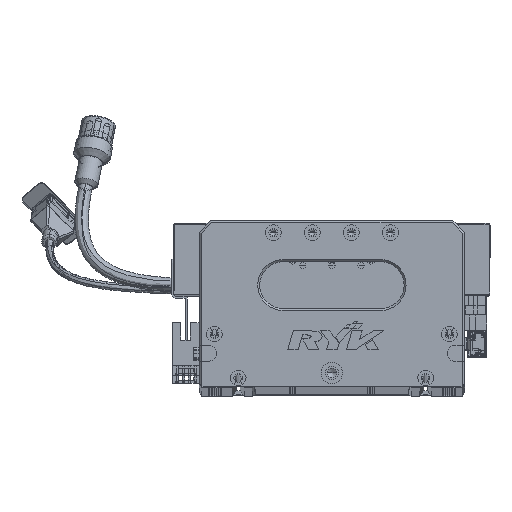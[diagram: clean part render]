
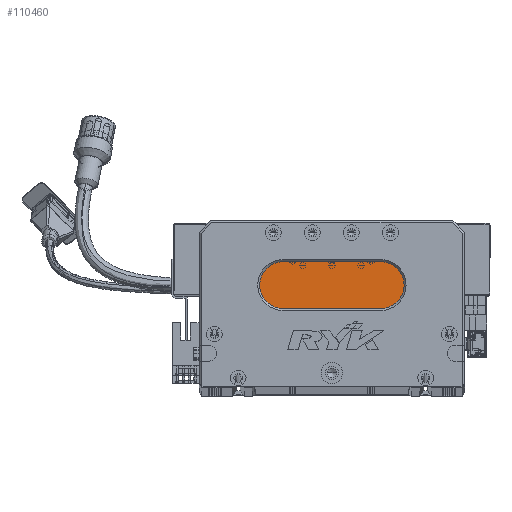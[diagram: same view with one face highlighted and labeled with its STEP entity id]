
A CAD part, top view. The second image highlights one B-rep face of the part: STEP entity #110460.
In plain terms, the highlighted planar face has unit normal (0, 0, 1) as drawn and (0, 0, -1) by its records, which use the part's own axes.
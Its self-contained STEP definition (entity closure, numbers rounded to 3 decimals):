
#2385 = DIRECTION ( 'NONE',  ( -1., 0., 0. ) ) ;
#6604 = CIRCLE ( 'NONE', #112884, 12. ) ;
#6897 = CARTESIAN_POINT ( 'NONE',  ( 43., 40., 13. ) ) ;
#7300 = ORIENTED_EDGE ( 'NONE', *, *, #128014, .T. ) ;
#8692 = AXIS2_PLACEMENT_3D ( 'NONE', #29308, #109112, #38988 ) ;
#9183 = EDGE_CURVE ( 'NONE', #80935, #64974, #130523, .T. ) ;
#18791 = EDGE_LOOP ( 'NONE', ( #102202, #24865, #7300, #125877, #94769 ) ) ;
#23215 = FACE_OUTER_BOUND ( 'NONE', #18791, .T. ) ;
#24865 = ORIENTED_EDGE ( 'NONE', *, *, #9183, .T. ) ;
#25184 = CARTESIAN_POINT ( 'NONE',  ( 43., 52., 13. ) ) ;
#26894 = DIRECTION ( 'NONE',  ( 0., 0., -1. ) ) ;
#29308 = CARTESIAN_POINT ( 'NONE',  ( 93., 52., 13. ) ) ;
#34053 = CARTESIAN_POINT ( 'NONE',  ( 93., 64., 13. ) ) ;
#37559 = CARTESIAN_POINT ( 'NONE',  ( 93., 64., 13. ) ) ;
#37570 = DIRECTION ( 'NONE',  ( 0., 0., -1. ) ) ;
#38988 = DIRECTION ( 'NONE',  ( -1., 0., 0. ) ) ;
#64974 = VERTEX_POINT ( 'NONE', #6897 ) ;
#65725 = DIRECTION ( 'NONE',  ( -1., 0., 0. ) ) ;
#66072 = LINE ( 'NONE', #34053, #75508 ) ;
#66090 = DIRECTION ( 'NONE',  ( -1., 0., 0. ) ) ;
#68423 = CIRCLE ( 'NONE', #107933, 12. ) ;
#68496 = AXIS2_PLACEMENT_3D ( 'NONE', #117874, #37570, #129311 ) ;
#74209 = DIRECTION ( 'NONE',  ( 1., 0., 0. ) ) ;
#75508 = VECTOR ( 'NONE', #74209, 1000. ) ;
#77903 = CARTESIAN_POINT ( 'NONE',  ( 93., 52., 13. ) ) ;
#80935 = VERTEX_POINT ( 'NONE', #89326 ) ;
#89326 = CARTESIAN_POINT ( 'NONE',  ( 93., 40., 13. ) ) ;
#92186 = EDGE_CURVE ( 'NONE', #99138, #127555, #112873, .T. ) ;
#94769 = ORIENTED_EDGE ( 'NONE', *, *, #108405, .T. ) ;
#98839 = CARTESIAN_POINT ( 'NONE',  ( 43., 64., 13. ) ) ;
#99138 = VERTEX_POINT ( 'NONE', #102311 ) ;
#101053 = VERTEX_POINT ( 'NONE', #37559 ) ;
#102202 = ORIENTED_EDGE ( 'NONE', *, *, #114966, .T. ) ;
#102311 = CARTESIAN_POINT ( 'NONE',  ( 31., 52., 13. ) ) ;
#102804 = CARTESIAN_POINT ( 'NONE',  ( 93., 40., 13. ) ) ;
#103656 = VECTOR ( 'NONE', #2385, 1000. ) ;
#107933 = AXIS2_PLACEMENT_3D ( 'NONE', #77903, #126462, #66090 ) ;
#108405 = EDGE_CURVE ( 'NONE', #127555, #101053, #66072, .T. ) ;
#109112 = DIRECTION ( 'NONE',  ( 0., 0., -1. ) ) ;
#110460 = ADVANCED_FACE ( 'NONE', ( #23215 ), #113564, .T. ) ;
#112873 = CIRCLE ( 'NONE', #68496, 12. ) ;
#112884 = AXIS2_PLACEMENT_3D ( 'NONE', #25184, #26894, #65725 ) ;
#113564 = PLANE ( 'NONE',  #8692 ) ;
#114966 = EDGE_CURVE ( 'NONE', #101053, #80935, #68423, .T. ) ;
#117874 = CARTESIAN_POINT ( 'NONE',  ( 43., 52., 13. ) ) ;
#125877 = ORIENTED_EDGE ( 'NONE', *, *, #92186, .T. ) ;
#126462 = DIRECTION ( 'NONE',  ( 0., 0., -1. ) ) ;
#127555 = VERTEX_POINT ( 'NONE', #98839 ) ;
#128014 = EDGE_CURVE ( 'NONE', #64974, #99138, #6604, .T. ) ;
#129311 = DIRECTION ( 'NONE',  ( -1., 0., 0. ) ) ;
#130523 = LINE ( 'NONE', #102804, #103656 ) ;
